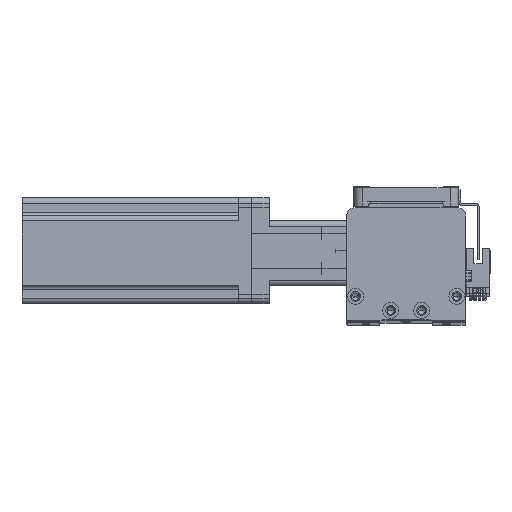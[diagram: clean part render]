
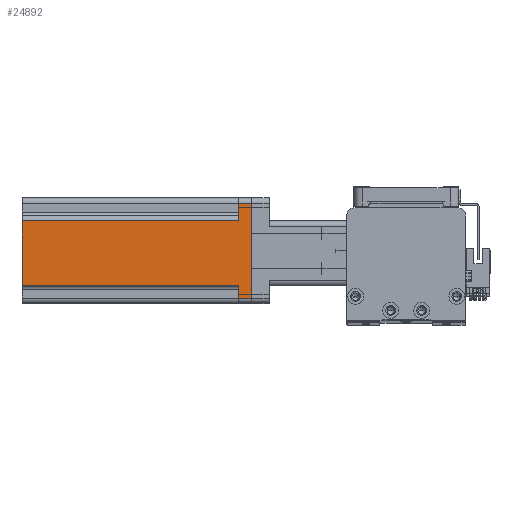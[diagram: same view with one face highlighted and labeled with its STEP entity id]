
A CAD part, top view. The second image highlights one B-rep face of the part: STEP entity #24892.
In plain terms, the highlighted planar face has unit normal (0, 0, 1) as drawn and (-1, 0, 0) by its records, which use the part's own axes.
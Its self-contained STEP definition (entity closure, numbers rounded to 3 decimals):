
#248 = VERTEX_POINT ( 'NONE', #8767 ) ;
#393 = CARTESIAN_POINT ( 'NONE',  ( -30., -17., 7.5 ) ) ;
#1379 = EDGE_CURVE ( 'NONE', #1414, #28292, #12560, .T. ) ;
#1414 = VERTEX_POINT ( 'NONE', #18521 ) ;
#1811 = ORIENTED_EDGE ( 'NONE', *, *, #1379, .F. ) ;
#1980 = VECTOR ( 'NONE', #46656, 1000. ) ;
#2230 = ORIENTED_EDGE ( 'NONE', *, *, #29508, .F. ) ;
#5562 = CARTESIAN_POINT ( 'NONE',  ( -30., -30., 130.7 ) ) ;
#6693 = VECTOR ( 'NONE', #42634, 1000. ) ;
#7821 = AXIS2_PLACEMENT_3D ( 'NONE', #5562, #30987, #9208 ) ;
#8071 = LINE ( 'NONE', #12583, #45566 ) ;
#8767 = CARTESIAN_POINT ( 'NONE',  ( -30., 27., 0. ) ) ;
#8932 = DIRECTION ( 'NONE',  ( 0., 0., 1. ) ) ;
#9208 = DIRECTION ( 'NONE',  ( 0., 0., -1. ) ) ;
#9244 = EDGE_CURVE ( 'NONE', #22933, #248, #32485, .T. ) ;
#10374 = CARTESIAN_POINT ( 'NONE',  ( -30., 20., 7.5 ) ) ;
#10481 = CARTESIAN_POINT ( 'NONE',  ( -30., 27., 7.5 ) ) ;
#12005 = EDGE_LOOP ( 'NONE', ( #27023, #13061, #1811, #2230, #14513, #42772, #21186, #40389 ) ) ;
#12455 = LINE ( 'NONE', #12570, #29521 ) ;
#12560 = LINE ( 'NONE', #21805, #40439 ) ;
#12570 = CARTESIAN_POINT ( 'NONE',  ( -30., 20., 7.5 ) ) ;
#12583 = CARTESIAN_POINT ( 'NONE',  ( -30., -30., 7.5 ) ) ;
#12680 = PLANE ( 'NONE',  #7821 ) ;
#13061 = ORIENTED_EDGE ( 'NONE', *, *, #16290, .T. ) ;
#13244 = DIRECTION ( 'NONE',  ( 0., -1., 0. ) ) ;
#14154 = LINE ( 'NONE', #42022, #20386 ) ;
#14341 = DIRECTION ( 'NONE',  ( 0., 0., 1. ) ) ;
#14465 = CARTESIAN_POINT ( 'NONE',  ( -30., 27., 130.7 ) ) ;
#14513 = ORIENTED_EDGE ( 'NONE', *, *, #44155, .T. ) ;
#16290 = EDGE_CURVE ( 'NONE', #25108, #28292, #30811, .T. ) ;
#18521 = CARTESIAN_POINT ( 'NONE',  ( -30., 20., 130.7 ) ) ;
#18794 = VECTOR ( 'NONE', #14341, 1000. ) ;
#19710 = CARTESIAN_POINT ( 'NONE',  ( -30., -27., 7.5 ) ) ;
#20215 = DIRECTION ( 'NONE',  ( 0., -1., 0. ) ) ;
#20386 = VECTOR ( 'NONE', #13244, 1000. ) ;
#20746 = VERTEX_POINT ( 'NONE', #37923 ) ;
#21155 = LINE ( 'NONE', #39404, #1980 ) ;
#21186 = ORIENTED_EDGE ( 'NONE', *, *, #25463, .T. ) ;
#21805 = CARTESIAN_POINT ( 'NONE',  ( -30., -30., 130.7 ) ) ;
#22933 = VERTEX_POINT ( 'NONE', #10481 ) ;
#23336 = DIRECTION ( 'NONE',  ( 0., -1., 0. ) ) ;
#24405 = EDGE_CURVE ( 'NONE', #25108, #42289, #8071, .T. ) ;
#24892 = ADVANCED_FACE ( 'NONE', ( #28406 ), #12680, .F. ) ;
#25108 = VERTEX_POINT ( 'NONE', #393 ) ;
#25165 = CARTESIAN_POINT ( 'NONE',  ( -30., -17., 130.7 ) ) ;
#25463 = EDGE_CURVE ( 'NONE', #248, #20746, #14154, .T. ) ;
#27023 = ORIENTED_EDGE ( 'NONE', *, *, #24405, .F. ) ;
#28292 = VERTEX_POINT ( 'NONE', #36848 ) ;
#28406 = FACE_OUTER_BOUND ( 'NONE', #12005, .T. ) ;
#29130 = DIRECTION ( 'NONE',  ( 0., 0., -1. ) ) ;
#29508 = EDGE_CURVE ( 'NONE', #39076, #1414, #12455, .T. ) ;
#29521 = VECTOR ( 'NONE', #8932, 1000. ) ;
#30811 = LINE ( 'NONE', #25165, #18794 ) ;
#30987 = DIRECTION ( 'NONE',  ( 1., 0., 0. ) ) ;
#31245 = EDGE_CURVE ( 'NONE', #20746, #42289, #21155, .T. ) ;
#31348 = VECTOR ( 'NONE', #29130, 1000. ) ;
#32485 = LINE ( 'NONE', #14465, #31348 ) ;
#35654 = LINE ( 'NONE', #39047, #6693 ) ;
#36848 = CARTESIAN_POINT ( 'NONE',  ( -30., -17., 130.7 ) ) ;
#37923 = CARTESIAN_POINT ( 'NONE',  ( -30., -27., 0. ) ) ;
#39047 = CARTESIAN_POINT ( 'NONE',  ( -30., 30., 7.5 ) ) ;
#39076 = VERTEX_POINT ( 'NONE', #10374 ) ;
#39404 = CARTESIAN_POINT ( 'NONE',  ( -30., -27., 130.7 ) ) ;
#40389 = ORIENTED_EDGE ( 'NONE', *, *, #31245, .T. ) ;
#40439 = VECTOR ( 'NONE', #20215, 1000. ) ;
#42022 = CARTESIAN_POINT ( 'NONE',  ( -30., -30., 0. ) ) ;
#42289 = VERTEX_POINT ( 'NONE', #19710 ) ;
#42634 = DIRECTION ( 'NONE',  ( 0., 1., 0. ) ) ;
#42772 = ORIENTED_EDGE ( 'NONE', *, *, #9244, .T. ) ;
#44155 = EDGE_CURVE ( 'NONE', #39076, #22933, #35654, .T. ) ;
#45566 = VECTOR ( 'NONE', #23336, 1000. ) ;
#46656 = DIRECTION ( 'NONE',  ( 0., 0., 1. ) ) ;
